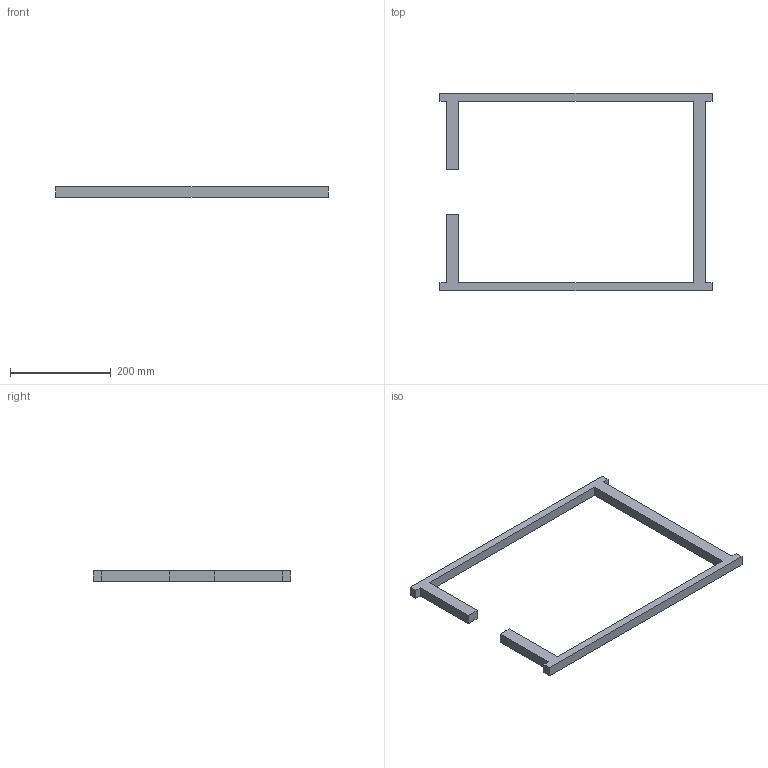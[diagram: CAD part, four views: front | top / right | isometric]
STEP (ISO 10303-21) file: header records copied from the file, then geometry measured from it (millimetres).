
FILE_DESCRIPTION(('Open CASCADE Model'),'2;1');
FILE_NAME('Open CASCADE Shape Model','2026-09-16T16:54:27',('Author'),( 'Open CASCADE'),'Open CASCADE STEP processor 7.8','Open CASCADE 7.8' ,'Unknown');
FILE_SCHEMA(('AUTOMOTIVE_DESIGN { 1 0 10303 214 1 1 1 1 }'));
Length unit declared in the file: millimetre
Products named in the file (1): Open CASCADE STEP translator 7.8 3
Bounding box: 540 x 392 x 20 mm (x, y, z)
Volume: 660600 mm3; surface area: 134740 mm2
Topology: 1 solids, 1 shells, 22 faces, 60 edges, 40 vertices
Faces by surface type: plane 22
Entity records: 1458 total; most frequent: CARTESIAN_POINT 259, DIRECTION 210, LINE 164, VECTOR 164, ORIENTED_EDGE 120, PCURVE 120, DEFINITIONAL_REPRESENTATION 120, EDGE_CURVE 60
